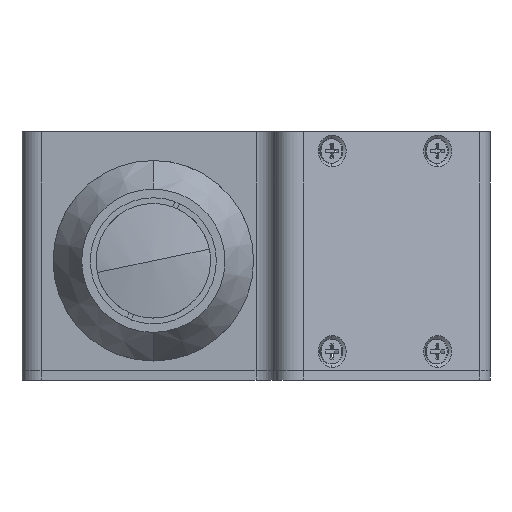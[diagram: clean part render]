
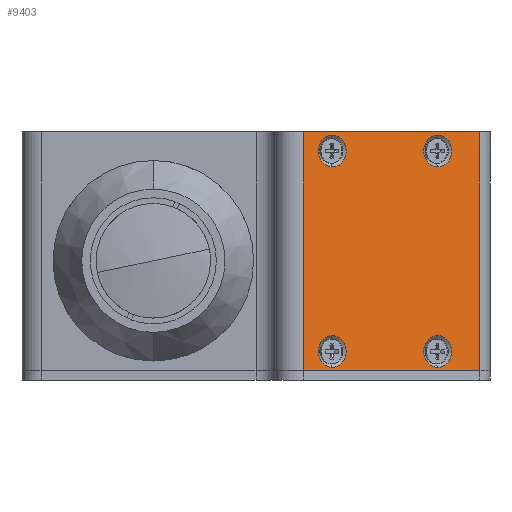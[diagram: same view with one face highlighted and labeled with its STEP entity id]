
A CAD part, left-side view. The second image highlights one B-rep face of the part: STEP entity #9403.
In plain terms, the highlighted planar face has unit normal (-0.883, -0.469, 0).
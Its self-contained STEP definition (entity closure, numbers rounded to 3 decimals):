
#204 = CIRCLE ( 'NONE', #8293, 3.3 ) ;
#240 = EDGE_CURVE ( 'NONE', #11950, #5356, #3768, .T. ) ;
#355 = CARTESIAN_POINT ( 'NONE',  ( 51.203, -37.475, 26.3 ) ) ;
#636 = AXIS2_PLACEMENT_3D ( 'NONE', #2366, #10629, #3529 ) ;
#829 = AXIS2_PLACEMENT_3D ( 'NONE', #1916, #10144, #3079 ) ;
#985 = CARTESIAN_POINT ( 'NONE',  ( 62.94, -59.548, 26.3 ) ) ;
#1080 = ORIENTED_EDGE ( 'NONE', *, *, #1557, .F. ) ;
#1108 = EDGE_CURVE ( 'NONE', #14712, #13269, #9686, .T. ) ;
#1198 = EDGE_CURVE ( 'NONE', #11950, #13269, #11376, .T. ) ;
#1320 = CARTESIAN_POINT ( 'NONE',  ( 62.94, -59.548, 19.7 ) ) ;
#1341 = CARTESIAN_POINT ( 'NONE',  ( 62.94, -59.548, -19. ) ) ;
#1424 = CARTESIAN_POINT ( 'NONE',  ( 62.94, -59.548, -22.3 ) ) ;
#1467 = DIRECTION ( 'NONE',  ( -0.469, 0.883, 0. ) ) ;
#1475 = CARTESIAN_POINT ( 'NONE',  ( 67.635, -68.378, 27. ) ) ;
#1557 = EDGE_CURVE ( 'NONE', #14712, #5356, #6515, .T. ) ;
#1581 = VECTOR ( 'NONE', #4495, 1000. ) ;
#1866 = FACE_OUTER_BOUND ( 'NONE', #9848, .T. ) ;
#1916 = CARTESIAN_POINT ( 'NONE',  ( 51.203, -37.475, 23. ) ) ;
#2241 = FACE_BOUND ( 'NONE', #14262, .T. ) ;
#2276 = EDGE_CURVE ( 'NONE', #6859, #5917, #8359, .T. ) ;
#2366 = CARTESIAN_POINT ( 'NONE',  ( 62.94, -59.548, 23. ) ) ;
#2525 = DIRECTION ( 'NONE',  ( 0., 0., 1. ) ) ;
#2602 = DIRECTION ( 'NONE',  ( -0.883, -0.469, 0. ) ) ;
#2887 = CARTESIAN_POINT ( 'NONE',  ( 51.203, -37.475, 19.7 ) ) ;
#2888 = CARTESIAN_POINT ( 'NONE',  ( 47.945, -31.348, 27. ) ) ;
#2899 = CARTESIAN_POINT ( 'NONE',  ( 62.94, -59.548, -19. ) ) ;
#3079 = DIRECTION ( 'NONE',  ( 0., 0., 1. ) ) ;
#3166 = ORIENTED_EDGE ( 'NONE', *, *, #2276, .F. ) ;
#3192 = AXIS2_PLACEMENT_3D ( 'NONE', #10449, #3360, #11647 ) ;
#3329 = DIRECTION ( 'NONE',  ( -0.883, -0.469, 0. ) ) ;
#3332 = VERTEX_POINT ( 'NONE', #8914 ) ;
#3360 = DIRECTION ( 'NONE',  ( -0.883, -0.469, 0. ) ) ;
#3407 = VECTOR ( 'NONE', #11407, 1000. ) ;
#3529 = DIRECTION ( 'NONE',  ( 0., 0., 1. ) ) ;
#3540 = EDGE_CURVE ( 'NONE', #3332, #10497, #204, .T. ) ;
#3601 = VERTEX_POINT ( 'NONE', #1320 ) ;
#3674 = VERTEX_POINT ( 'NONE', #1424 ) ;
#3768 = LINE ( 'NONE', #13066, #12818 ) ;
#3842 = CARTESIAN_POINT ( 'NONE',  ( 47.945, -31.348, -23. ) ) ;
#3887 = ORIENTED_EDGE ( 'NONE', *, *, #12483, .F. ) ;
#4068 = DIRECTION ( 'NONE',  ( 0., 0., 1. ) ) ;
#4154 = CARTESIAN_POINT ( 'NONE',  ( 51.203, -37.475, -22.3 ) ) ;
#4393 = CIRCLE ( 'NONE', #3192, 3.3 ) ;
#4495 = DIRECTION ( 'NONE',  ( 0.469, -0.883, 0. ) ) ;
#5356 = VERTEX_POINT ( 'NONE', #3842 ) ;
#5383 = ORIENTED_EDGE ( 'NONE', *, *, #1108, .T. ) ;
#5424 = EDGE_CURVE ( 'NONE', #8692, #3674, #7471, .T. ) ;
#5481 = DIRECTION ( 'NONE',  ( 0., 0., 1. ) ) ;
#5573 = CIRCLE ( 'NONE', #636, 3.3 ) ;
#5917 = VERTEX_POINT ( 'NONE', #2887 ) ;
#6039 = ORIENTED_EDGE ( 'NONE', *, *, #240, .T. ) ;
#6079 = FACE_BOUND ( 'NONE', #9361, .T. ) ;
#6105 = CARTESIAN_POINT ( 'NONE',  ( 51.203, -37.475, -19. ) ) ;
#6515 = LINE ( 'NONE', #9645, #9672 ) ;
#6524 = AXIS2_PLACEMENT_3D ( 'NONE', #11416, #12559, #5481 ) ;
#6768 = CIRCLE ( 'NONE', #7453, 3.3 ) ;
#6859 = VERTEX_POINT ( 'NONE', #355 ) ;
#7291 = DIRECTION ( 'NONE',  ( 0., 0., 1. ) ) ;
#7453 = AXIS2_PLACEMENT_3D ( 'NONE', #1341, #9572, #2525 ) ;
#7471 = CIRCLE ( 'NONE', #12154, 3.3 ) ;
#7762 = EDGE_CURVE ( 'NONE', #9381, #3601, #5573, .T. ) ;
#7838 = CIRCLE ( 'NONE', #10467, 3.3 ) ;
#7864 = CARTESIAN_POINT ( 'NONE',  ( 67.635, -68.378, 2. ) ) ;
#7965 = ORIENTED_EDGE ( 'NONE', *, *, #10116, .F. ) ;
#8119 = FACE_BOUND ( 'NONE', #9649, .T. ) ;
#8293 = AXIS2_PLACEMENT_3D ( 'NONE', #6105, #14370, #7291 ) ;
#8359 = CIRCLE ( 'NONE', #829, 3.3 ) ;
#8385 = AXIS2_PLACEMENT_3D ( 'NONE', #10418, #3329, #11617 ) ;
#8547 = EDGE_LOOP ( 'NONE', ( #9416, #10647 ) ) ;
#8692 = VERTEX_POINT ( 'NONE', #14733 ) ;
#8824 = CARTESIAN_POINT ( 'NONE',  ( 67.635, -68.378, -23. ) ) ;
#8914 = CARTESIAN_POINT ( 'NONE',  ( 51.203, -37.475, -15.7 ) ) ;
#9333 = ORIENTED_EDGE ( 'NONE', *, *, #14467, .F. ) ;
#9361 = EDGE_LOOP ( 'NONE', ( #11271, #9333 ) ) ;
#9381 = VERTEX_POINT ( 'NONE', #985 ) ;
#9403 = ADVANCED_FACE ( 'NONE', ( #14389, #2241, #6079, #8119, #1866 ), #10196, .T. ) ;
#9416 = ORIENTED_EDGE ( 'NONE', *, *, #7762, .F. ) ;
#9572 = DIRECTION ( 'NONE',  ( -0.883, -0.469, 0. ) ) ;
#9645 = CARTESIAN_POINT ( 'NONE',  ( 70.876, -74.473, -23. ) ) ;
#9649 = EDGE_LOOP ( 'NONE', ( #3166, #7965 ) ) ;
#9655 = CARTESIAN_POINT ( 'NONE',  ( 51.203, -37.475, -19. ) ) ;
#9672 = VECTOR ( 'NONE', #1467, 1000. ) ;
#9686 = LINE ( 'NONE', #7864, #3407 ) ;
#9848 = EDGE_LOOP ( 'NONE', ( #1080, #5383, #10077, #6039 ) ) ;
#10077 = ORIENTED_EDGE ( 'NONE', *, *, #1198, .F. ) ;
#10116 = EDGE_CURVE ( 'NONE', #5917, #6859, #4393, .T. ) ;
#10144 = DIRECTION ( 'NONE',  ( -0.883, -0.469, 0. ) ) ;
#10196 = PLANE ( 'NONE',  #6524 ) ;
#10406 = CARTESIAN_POINT ( 'NONE',  ( 70.876, -74.473, 27. ) ) ;
#10418 = CARTESIAN_POINT ( 'NONE',  ( 62.94, -59.548, 23. ) ) ;
#10449 = CARTESIAN_POINT ( 'NONE',  ( 51.203, -37.475, 23. ) ) ;
#10467 = AXIS2_PLACEMENT_3D ( 'NONE', #9655, #2602, #10869 ) ;
#10497 = VERTEX_POINT ( 'NONE', #4154 ) ;
#10629 = DIRECTION ( 'NONE',  ( -0.883, -0.469, 0. ) ) ;
#10647 = ORIENTED_EDGE ( 'NONE', *, *, #12294, .F. ) ;
#10869 = DIRECTION ( 'NONE',  ( 0., 0., 1. ) ) ;
#11174 = DIRECTION ( 'NONE',  ( -0.883, -0.469, 0. ) ) ;
#11271 = ORIENTED_EDGE ( 'NONE', *, *, #3540, .F. ) ;
#11376 = LINE ( 'NONE', #10406, #1581 ) ;
#11407 = DIRECTION ( 'NONE',  ( 0., 0., 1. ) ) ;
#11416 = CARTESIAN_POINT ( 'NONE',  ( 57.848, -49.971, 2. ) ) ;
#11617 = DIRECTION ( 'NONE',  ( 0., 0., 1. ) ) ;
#11647 = DIRECTION ( 'NONE',  ( 0., 0., 1. ) ) ;
#11950 = VERTEX_POINT ( 'NONE', #2888 ) ;
#12154 = AXIS2_PLACEMENT_3D ( 'NONE', #2899, #11174, #4068 ) ;
#12294 = EDGE_CURVE ( 'NONE', #3601, #9381, #14528, .T. ) ;
#12483 = EDGE_CURVE ( 'NONE', #3674, #8692, #6768, .T. ) ;
#12559 = DIRECTION ( 'NONE',  ( -0.883, -0.469, 0. ) ) ;
#12818 = VECTOR ( 'NONE', #14246, 1000. ) ;
#13066 = CARTESIAN_POINT ( 'NONE',  ( 47.945, -31.348, 2. ) ) ;
#13269 = VERTEX_POINT ( 'NONE', #1475 ) ;
#14099 = ORIENTED_EDGE ( 'NONE', *, *, #5424, .F. ) ;
#14246 = DIRECTION ( 'NONE',  ( 0., 0., -1. ) ) ;
#14262 = EDGE_LOOP ( 'NONE', ( #14099, #3887 ) ) ;
#14370 = DIRECTION ( 'NONE',  ( -0.883, -0.469, 0. ) ) ;
#14389 = FACE_BOUND ( 'NONE', #8547, .T. ) ;
#14467 = EDGE_CURVE ( 'NONE', #10497, #3332, #7838, .T. ) ;
#14528 = CIRCLE ( 'NONE', #8385, 3.3 ) ;
#14712 = VERTEX_POINT ( 'NONE', #8824 ) ;
#14733 = CARTESIAN_POINT ( 'NONE',  ( 62.94, -59.548, -15.7 ) ) ;
